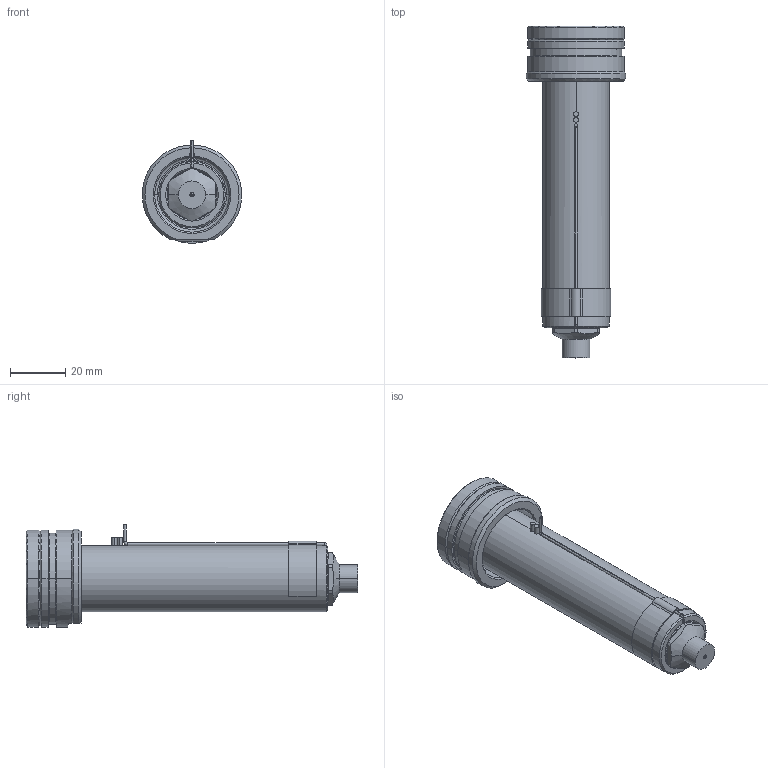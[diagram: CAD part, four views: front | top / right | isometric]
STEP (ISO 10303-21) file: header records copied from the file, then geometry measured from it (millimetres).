
FILE_DESCRIPTION((''),'2;1');
FILE_NAME('EO06_PG-FB_STD_100_SW','2024-02-19T11:25:51',('sundharh'),(''),'CREO PARAMETRIC BY PTC INC, 2023154','CREO PARAMETRIC BY PTC INC, 2023154','');
FILE_SCHEMA(('CONFIG_CONTROL_DESIGN'));
Length unit declared in the file: millimetre
Products named in the file (1): EO06_PG-FB_STD_100_SW
Bounding box: 35.93 x 120 x 37 mm (x, y, z)
Volume: 56091.1 mm3; surface area: 17187.1 mm2
Topology: 2 solids, 2 shells, 209 faces, 564 edges, 345 vertices
Faces by surface type: cylinder 85, plane 54, cone 40, torus 21, bspline 6, sphere 3
Entity records: 7557 total; most frequent: CARTESIAN_POINT 2236, DIRECTION 1171, ORIENTED_EDGE 1108, EDGE_CURVE 554, AXIS2_PLACEMENT_3D 492, VERTEX_POINT 345, CIRCLE 289, EDGE_LOOP 225
